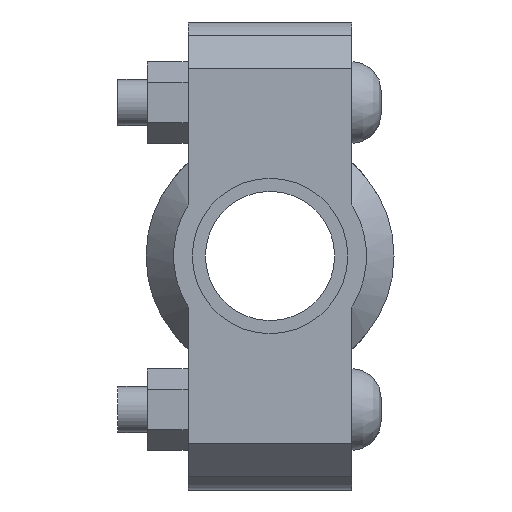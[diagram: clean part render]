
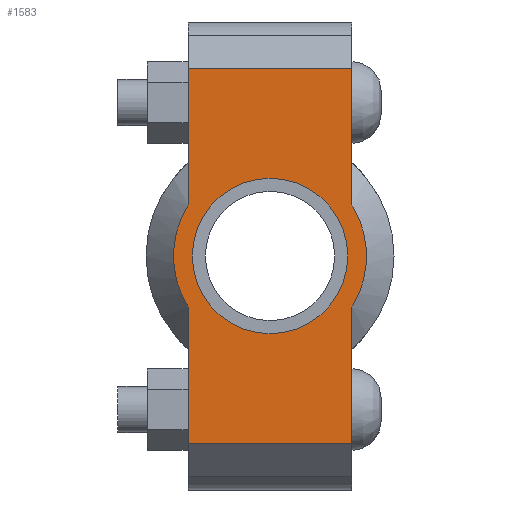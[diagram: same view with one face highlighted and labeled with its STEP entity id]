
A CAD part, left-side view. The second image highlights one B-rep face of the part: STEP entity #1583.
In plain terms, the highlighted planar face has unit normal (-1, 0, 0) as drawn and (0, 0, 1) by its records, which use the part's own axes.
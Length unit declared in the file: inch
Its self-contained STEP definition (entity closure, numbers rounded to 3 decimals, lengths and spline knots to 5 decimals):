
#194=LINE('',#2721,#289);
#209=LINE('',#2780,#304);
#217=LINE('',#2810,#312);
#219=LINE('',#2813,#314);
#220=LINE('',#2818,#315);
#221=LINE('',#2819,#316);
#289=VECTOR('',#2191,0.3937);
#304=VECTOR('',#2226,0.3937);
#312=VECTOR('',#2246,0.3937);
#314=VECTOR('',#2250,0.3937);
#315=VECTOR('',#2255,0.3937);
#316=VECTOR('',#2256,0.3937);
#376=FACE_BOUND('',#535,.T.);
#436=FACE_OUTER_BOUND('',#534,.T.);
#534=EDGE_LOOP('',(#1278,#1279,#1280,#1281,#1282,#1283,#1284,#1285));
#535=EDGE_LOOP('',(#1286));
#640=CIRCLE('',#1846,1.031);
#641=CIRCLE('',#1847,1.031);
#642=CIRCLE('',#1848,0.83);
#749=VERTEX_POINT('',#2718);
#750=VERTEX_POINT('',#2720);
#771=VERTEX_POINT('',#2775);
#772=VERTEX_POINT('',#2779);
#781=VERTEX_POINT('',#2805);
#782=VERTEX_POINT('',#2809);
#783=VERTEX_POINT('',#2815);
#784=VERTEX_POINT('',#2817);
#785=VERTEX_POINT('',#2821);
#919=EDGE_CURVE('',#750,#749,#194,.T.);
#944=EDGE_CURVE('',#772,#771,#209,.T.);
#957=EDGE_CURVE('',#782,#781,#217,.T.);
#959=EDGE_CURVE('',#782,#749,#219,.T.);
#960=EDGE_CURVE('',#781,#783,#640,.T.);
#961=EDGE_CURVE('',#783,#784,#220,.T.);
#962=EDGE_CURVE('',#772,#784,#221,.T.);
#963=EDGE_CURVE('',#771,#750,#641,.T.);
#964=EDGE_CURVE('',#785,#785,#642,.T.);
#1278=ORIENTED_EDGE('',*,*,#959,.F.);
#1279=ORIENTED_EDGE('',*,*,#957,.T.);
#1280=ORIENTED_EDGE('',*,*,#960,.T.);
#1281=ORIENTED_EDGE('',*,*,#961,.T.);
#1282=ORIENTED_EDGE('',*,*,#962,.F.);
#1283=ORIENTED_EDGE('',*,*,#944,.T.);
#1284=ORIENTED_EDGE('',*,*,#963,.T.);
#1285=ORIENTED_EDGE('',*,*,#919,.T.);
#1286=ORIENTED_EDGE('',*,*,#964,.T.);
#1435=PLANE('',#1845);
#1583=ADVANCED_FACE('',(#436,#376),#1435,.T.);
#1845=AXIS2_PLACEMENT_3D('',#2814,#2251,#2252);
#1846=AXIS2_PLACEMENT_3D('',#2816,#2253,#2254);
#1847=AXIS2_PLACEMENT_3D('',#2820,#2257,#2258);
#1848=AXIS2_PLACEMENT_3D('',#2822,#2259,#2260);
#2191=DIRECTION('',(1.,0.,0.));
#2226=DIRECTION('',(1.,0.,0.));
#2246=DIRECTION('',(-1.,0.,0.));
#2250=DIRECTION('',(0.,-1.,0.));
#2251=DIRECTION('center_axis',(0.,0.,1.));
#2252=DIRECTION('ref_axis',(-1.,0.,0.));
#2253=DIRECTION('center_axis',(0.,0.,1.));
#2254=DIRECTION('ref_axis',(1.,0.,0.));
#2255=DIRECTION('',(-1.,0.,0.));
#2256=DIRECTION('',(0.,1.,0.));
#2257=DIRECTION('center_axis',(0.,0.,1.));
#2258=DIRECTION('ref_axis',(1.,0.,0.));
#2259=DIRECTION('center_axis',(0.,0.,-1.));
#2260=DIRECTION('ref_axis',(1.,0.,0.));
#2718=CARTESIAN_POINT('',(2.,-0.875,0.94));
#2720=CARTESIAN_POINT('',(0.54529,-0.875,0.94));
#2721=CARTESIAN_POINT('',(-2.5,-0.875,0.94));
#2775=CARTESIAN_POINT('',(-0.54529,-0.875,0.94));
#2779=CARTESIAN_POINT('',(-2.,-0.875,0.94));
#2780=CARTESIAN_POINT('',(-2.5,-0.875,0.94));
#2805=CARTESIAN_POINT('',(0.54529,0.875,0.94));
#2809=CARTESIAN_POINT('',(2.,0.875,0.94));
#2810=CARTESIAN_POINT('',(2.5,0.875,0.94));
#2813=CARTESIAN_POINT('',(2.,-0.4375,0.94));
#2814=CARTESIAN_POINT('Origin',(0.,0.,
0.94));
#2815=CARTESIAN_POINT('',(-0.54529,0.875,0.94));
#2816=CARTESIAN_POINT('Origin',(0.,0.,0.94));
#2817=CARTESIAN_POINT('',(-2.,0.875,0.94));
#2818=CARTESIAN_POINT('',(2.5,0.875,0.94));
#2819=CARTESIAN_POINT('',(-2.,0.4375,0.94));
#2820=CARTESIAN_POINT('Origin',(0.,0.,0.94));
#2821=CARTESIAN_POINT('',(-0.83,0.,0.94));
#2822=CARTESIAN_POINT('Origin',(0.,0.,0.94));
